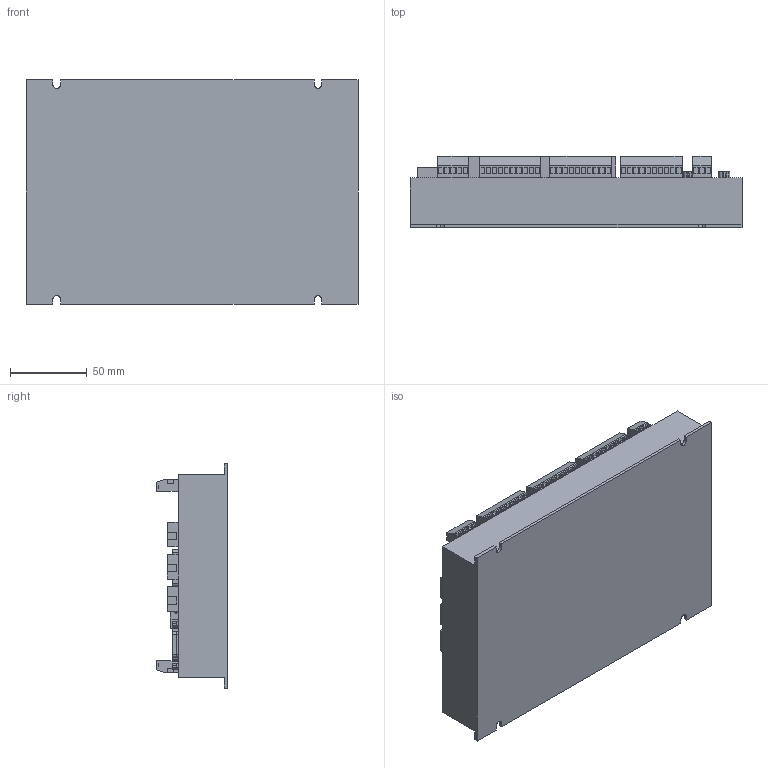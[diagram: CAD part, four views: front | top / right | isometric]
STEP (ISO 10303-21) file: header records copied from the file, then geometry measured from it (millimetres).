
FILE_DESCRIPTION (( 'STEP AP214' ), '1' );
FILE_NAME ('ZMC432N.STEP', '2018-08-24T09:56:59', ( 'Microsoft' ), ( ' ' ), 'SwSTEP 2.0', 'SolidWorks 2014', '' );
FILE_SCHEMA (( 'AUTOMOTIVE_DESIGN' ));
Length unit declared in the file: millimetre
Products named in the file (11): 傷赽-苤-3; 26渀-3齬-譫芛; 9渀-2齬-鼠芛; 厙諳-酗; 厙諳-傻; ZMC432N-俋褲; ZMC432N; 腑; U攫; 傷赽-苤-5; 傷赽-苤-10
Assembly tree (24 placements, depth 2):
  ZMC432N
    ZMC432N-俋褲
    厙諳-傻  x2
    厙諳-酗
    9渀-2齬-鼠芛
    26渀-3齬-譫芛  x6
    傷赽-苤-3
    傷赽-苤-10  x4
    傷赽-苤-5  x3
    U攫
    腑  x4
Bounding box: 216 x 46 x 146 mm (x, y, z)
Volume: 948414.7 mm3; surface area: 112140.9 mm2
Topology: 87 solids, 87 shells, 2961 faces, 7470 edges, 4976 vertices
Faces by surface type: plane 2037, cylinder 528, bspline 388, sphere 8
Entity records: 74506 total; most frequent: CARTESIAN_POINT 28021, ORIENTED_EDGE 9928, DIRECTION 7536, EDGE_CURVE 4964, LINE 3840, VECTOR 3840, VERTEX_POINT 3309, EDGE_LOOP 1955
